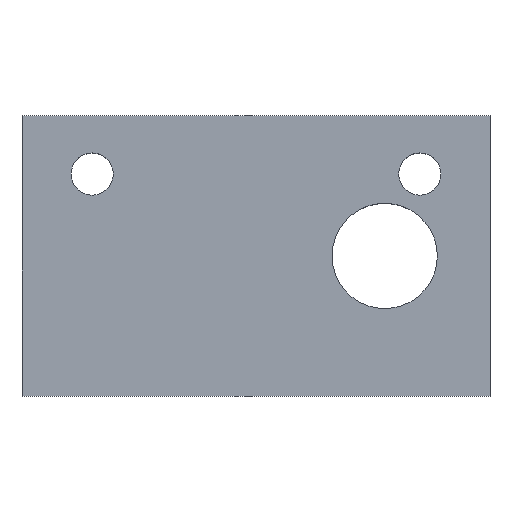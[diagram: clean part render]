
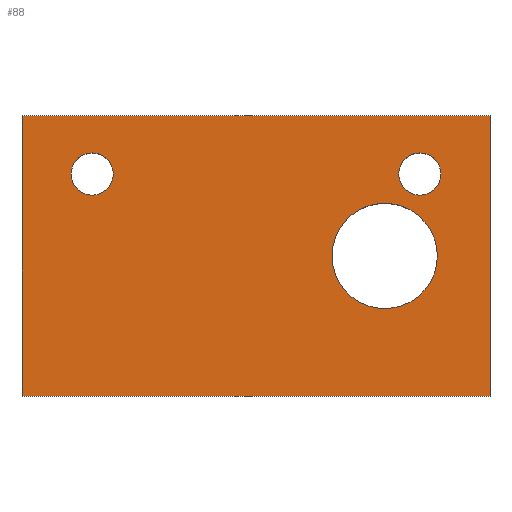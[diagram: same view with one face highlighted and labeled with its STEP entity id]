
A CAD part, top view. The second image highlights one B-rep face of the part: STEP entity #88.
In plain terms, the highlighted planar face has unit normal (0, 0, 1).
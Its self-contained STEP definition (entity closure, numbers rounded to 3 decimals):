
#24 = VERTEX_POINT('',#25);
#25 = CARTESIAN_POINT('',(-20.,-30.,212.4));
#40 = VERTEX_POINT('',#41);
#41 = CARTESIAN_POINT('',(-20.,-6.,212.4));
#47 = EDGE_CURVE('',#24,#40,#48,.T.);
#48 = LINE('',#49,#50);
#49 = CARTESIAN_POINT('',(-20.,-30.,212.4));
#50 = VECTOR('',#51,1.);
#51 = DIRECTION('',(0.,1.,0.));
#70 = EDGE_CURVE('',#24,#71,#73,.T.);
#71 = VERTEX_POINT('',#72);
#72 = CARTESIAN_POINT('',(20.,-30.,212.4));
#73 = LINE('',#74,#75);
#74 = CARTESIAN_POINT('',(-20.,-30.,212.4));
#75 = VECTOR('',#76,1.);
#76 = DIRECTION('',(1.,0.,0.));
#88 = ADVANCED_FACE('',(#89,#107,#118,#129),#140,.T.);
#89 = FACE_BOUND('',#90,.T.);
#90 = EDGE_LOOP('',(#91,#92,#93,#101));
#91 = ORIENTED_EDGE('',*,*,#47,.F.);
#92 = ORIENTED_EDGE('',*,*,#70,.T.);
#93 = ORIENTED_EDGE('',*,*,#94,.T.);
#94 = EDGE_CURVE('',#71,#95,#97,.T.);
#95 = VERTEX_POINT('',#96);
#96 = CARTESIAN_POINT('',(20.,-6.,212.4));
#97 = LINE('',#98,#99);
#98 = CARTESIAN_POINT('',(20.,-30.,212.4));
#99 = VECTOR('',#100,1.);
#100 = DIRECTION('',(0.,1.,0.));
#101 = ORIENTED_EDGE('',*,*,#102,.F.);
#102 = EDGE_CURVE('',#40,#95,#103,.T.);
#103 = LINE('',#104,#105);
#104 = CARTESIAN_POINT('',(-20.,-6.,212.4));
#105 = VECTOR('',#106,1.);
#106 = DIRECTION('',(1.,0.,0.));
#107 = FACE_BOUND('',#108,.T.);
#108 = EDGE_LOOP('',(#109));
#109 = ORIENTED_EDGE('',*,*,#110,.F.);
#110 = EDGE_CURVE('',#111,#111,#113,.T.);
#111 = VERTEX_POINT('',#112);
#112 = CARTESIAN_POINT('',(15.5,-18.,212.4));
#113 = CIRCLE('',#114,4.5);
#114 = AXIS2_PLACEMENT_3D('',#115,#116,#117);
#115 = CARTESIAN_POINT('',(11.,-18.,212.4));
#116 = DIRECTION('',(0.,0.,1.));
#117 = DIRECTION('',(1.,0.,0.));
#118 = FACE_BOUND('',#119,.T.);
#119 = EDGE_LOOP('',(#120));
#120 = ORIENTED_EDGE('',*,*,#121,.F.);
#121 = EDGE_CURVE('',#122,#122,#124,.T.);
#122 = VERTEX_POINT('',#123);
#123 = CARTESIAN_POINT('',(-12.2,-11.,212.4));
#124 = CIRCLE('',#125,1.8);
#125 = AXIS2_PLACEMENT_3D('',#126,#127,#128);
#126 = CARTESIAN_POINT('',(-14.,-11.,212.4));
#127 = DIRECTION('',(0.,0.,1.));
#128 = DIRECTION('',(1.,0.,0.));
#129 = FACE_BOUND('',#130,.T.);
#130 = EDGE_LOOP('',(#131));
#131 = ORIENTED_EDGE('',*,*,#132,.F.);
#132 = EDGE_CURVE('',#133,#133,#135,.T.);
#133 = VERTEX_POINT('',#134);
#134 = CARTESIAN_POINT('',(15.8,-11.,212.4));
#135 = CIRCLE('',#136,1.8);
#136 = AXIS2_PLACEMENT_3D('',#137,#138,#139);
#137 = CARTESIAN_POINT('',(14.,-11.,212.4));
#138 = DIRECTION('',(0.,0.,1.));
#139 = DIRECTION('',(1.,0.,0.));
#140 = PLANE('',#141);
#141 = AXIS2_PLACEMENT_3D('',#142,#143,#144);
#142 = CARTESIAN_POINT('',(-20.,-30.,212.4));
#143 = DIRECTION('',(0.,0.,1.));
#144 = DIRECTION('',(1.,0.,0.));
